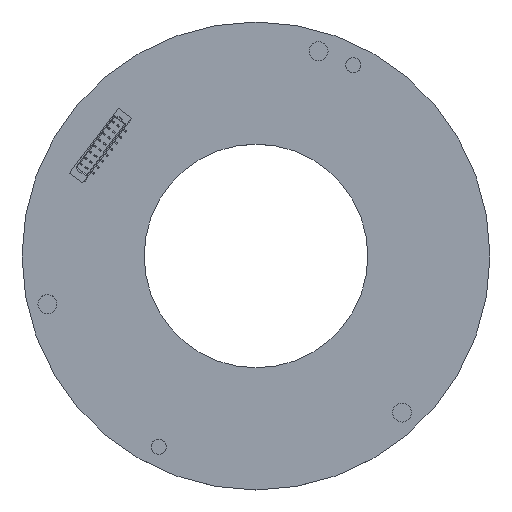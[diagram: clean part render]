
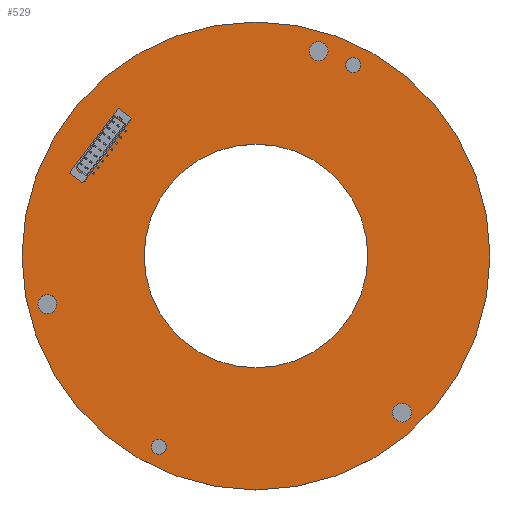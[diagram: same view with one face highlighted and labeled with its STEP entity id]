
A CAD part, top view. The second image highlights one B-rep face of the part: STEP entity #529.
In plain terms, the highlighted planar face has unit normal (0, 0, 1).
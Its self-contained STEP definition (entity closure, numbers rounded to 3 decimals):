
#156=CARTESIAN_POINT('',(0.,0.,0.8));
#157=DIRECTION('',(0.,0.,1.));
#158=DIRECTION('',(1.,0.,0.));
#159=AXIS2_PLACEMENT_3D('',#156,#157,#158);
#164=CARTESIAN_POINT('',(0.,0.,0.8));
#165=DIRECTION('',(0.,0.,1.));
#166=DIRECTION('',(-1.,0.,0.));
#167=AXIS2_PLACEMENT_3D('',#164,#165,#166);
#172=CARTESIAN_POINT('',(-10.306,-20.226,0.8));
#173=DIRECTION('',(0.,0.,1.));
#174=DIRECTION('',(1.,0.,0.));
#175=AXIS2_PLACEMENT_3D('',#172,#173,#174);
#180=CARTESIAN_POINT('',(-10.306,-20.226,0.8));
#181=DIRECTION('',(0.,0.,1.));
#182=DIRECTION('',(-1.,0.,0.));
#183=AXIS2_PLACEMENT_3D('',#180,#181,#182);
#188=CARTESIAN_POINT('',(-22.118,-5.106,0.8));
#189=DIRECTION('',(0.,0.,1.));
#190=DIRECTION('',(1.,0.,0.));
#191=AXIS2_PLACEMENT_3D('',#188,#189,#190);
#196=CARTESIAN_POINT('',(-22.118,-5.106,0.8));
#197=DIRECTION('',(0.,0.,1.));
#198=DIRECTION('',(-1.,0.,0.));
#199=AXIS2_PLACEMENT_3D('',#196,#197,#198);
#204=CARTESIAN_POINT('',(0.,0.,0.8));
#205=DIRECTION('',(0.,0.,1.));
#206=DIRECTION('',(1.,0.,0.));
#207=AXIS2_PLACEMENT_3D('',#204,#205,#206);
#212=CARTESIAN_POINT('',(0.,0.,0.8));
#213=DIRECTION('',(0.,0.,1.));
#214=DIRECTION('',(-1.,0.,0.));
#215=AXIS2_PLACEMENT_3D('',#212,#213,#214);
#220=CARTESIAN_POINT('',(15.481,-16.602,0.8));
#221=DIRECTION('',(0.,0.,1.));
#222=DIRECTION('',(1.,0.,0.));
#223=AXIS2_PLACEMENT_3D('',#220,#221,#222);
#228=CARTESIAN_POINT('',(15.481,-16.602,0.8));
#229=DIRECTION('',(0.,0.,1.));
#230=DIRECTION('',(-1.,0.,0.));
#231=AXIS2_PLACEMENT_3D('',#228,#229,#230);
#236=CARTESIAN_POINT('',(6.637,21.708,0.8));
#237=DIRECTION('',(0.,0.,1.));
#238=DIRECTION('',(1.,0.,0.));
#239=AXIS2_PLACEMENT_3D('',#236,#237,#238);
#244=CARTESIAN_POINT('',(6.637,21.708,0.8));
#245=DIRECTION('',(0.,0.,1.));
#246=DIRECTION('',(-1.,0.,0.));
#247=AXIS2_PLACEMENT_3D('',#244,#245,#246);
#252=CARTESIAN_POINT('',(10.306,20.226,0.8));
#253=DIRECTION('',(0.,0.,1.));
#254=DIRECTION('',(1.,0.,0.));
#255=AXIS2_PLACEMENT_3D('',#252,#253,#254);
#260=CARTESIAN_POINT('',(10.306,20.226,0.8));
#261=DIRECTION('',(0.,0.,1.));
#262=DIRECTION('',(-1.,0.,0.));
#263=AXIS2_PLACEMENT_3D('',#260,#261,#262);
#352=CARTESIAN_POINT('',(-24.8,0.,0.8));
#354=VERTEX_POINT('',#352);
#356=CARTESIAN_POINT('',(24.8,0.,0.8));
#358=VERTEX_POINT('',#356);
#360=CARTESIAN_POINT('',(-11.106,-20.226,0.8));
#362=VERTEX_POINT('',#360);
#364=CARTESIAN_POINT('',(-9.506,-20.226,0.8));
#366=VERTEX_POINT('',#364);
#368=CARTESIAN_POINT('',(-23.118,-5.106,0.8));
#370=VERTEX_POINT('',#368);
#372=CARTESIAN_POINT('',(-21.118,-5.106,0.8));
#374=VERTEX_POINT('',#372);
#376=CARTESIAN_POINT('',(-11.85,0.,0.8));
#378=VERTEX_POINT('',#376);
#380=CARTESIAN_POINT('',(11.85,0.,0.8));
#382=VERTEX_POINT('',#380);
#384=CARTESIAN_POINT('',(14.481,-16.602,0.8));
#386=VERTEX_POINT('',#384);
#388=CARTESIAN_POINT('',(16.481,-16.602,0.8));
#390=VERTEX_POINT('',#388);
#392=CARTESIAN_POINT('',(5.637,21.708,0.8));
#394=VERTEX_POINT('',#392);
#396=CARTESIAN_POINT('',(7.637,21.708,0.8));
#398=VERTEX_POINT('',#396);
#400=CARTESIAN_POINT('',(9.506,20.226,0.8));
#402=VERTEX_POINT('',#400);
#404=CARTESIAN_POINT('',(11.106,20.226,0.8));
#406=VERTEX_POINT('',#404);
#484=CARTESIAN_POINT('',(24.8,0.,0.8));
#485=DIRECTION('',(0.,0.,-1.));
#486=DIRECTION('',(-1.,0.,0.));
#487=AXIS2_PLACEMENT_3D('',#484,#485,#486);
#488=PLANE('',#487);
#489=ORIENTED_EDGE('',*,*,#478,.F.);
#490=ORIENTED_EDGE('',*,*,#417,.F.);
#491=EDGE_LOOP('',(#489,#490));
#492=FACE_OUTER_BOUND('',#491,.F.);
#494=ORIENTED_EDGE('',*,*,#493,.T.);
#496=ORIENTED_EDGE('',*,*,#495,.T.);
#497=EDGE_LOOP('',(#494,#496));
#498=FACE_BOUND('',#497,.F.);
#500=ORIENTED_EDGE('',*,*,#499,.T.);
#502=ORIENTED_EDGE('',*,*,#501,.T.);
#503=EDGE_LOOP('',(#500,#502));
#504=FACE_BOUND('',#503,.F.);
#506=ORIENTED_EDGE('',*,*,#505,.T.);
#508=ORIENTED_EDGE('',*,*,#507,.T.);
#509=EDGE_LOOP('',(#506,#508));
#510=FACE_BOUND('',#509,.F.);
#512=ORIENTED_EDGE('',*,*,#511,.T.);
#514=ORIENTED_EDGE('',*,*,#513,.T.);
#515=EDGE_LOOP('',(#512,#514));
#516=FACE_BOUND('',#515,.F.);
#518=ORIENTED_EDGE('',*,*,#517,.T.);
#520=ORIENTED_EDGE('',*,*,#519,.T.);
#521=EDGE_LOOP('',(#518,#520));
#522=FACE_BOUND('',#521,.F.);
#524=ORIENTED_EDGE('',*,*,#523,.T.);
#526=ORIENTED_EDGE('',*,*,#525,.T.);
#527=EDGE_LOOP('',(#524,#526));
#528=FACE_BOUND('',#527,.F.);
#529=ADVANCED_FACE('',(#492,#498,#504,#510,#516,#522,#528),#488,.F.);
#160=CIRCLE('',#159,24.8);
#168=CIRCLE('',#167,24.8);
#176=CIRCLE('',#175,0.8);
#184=CIRCLE('',#183,0.8);
#192=CIRCLE('',#191,1.);
#200=CIRCLE('',#199,1.);
#208=CIRCLE('',#207,11.85);
#216=CIRCLE('',#215,11.85);
#224=CIRCLE('',#223,1.);
#232=CIRCLE('',#231,1.);
#240=CIRCLE('',#239,1.);
#248=CIRCLE('',#247,1.);
#256=CIRCLE('',#255,0.8);
#264=CIRCLE('',#263,0.8);
#417=EDGE_CURVE('',#354,#358,#168,.T.);
#478=EDGE_CURVE('',#358,#354,#160,.T.);
#493=EDGE_CURVE('',#366,#362,#176,.T.);
#495=EDGE_CURVE('',#362,#366,#184,.T.);
#499=EDGE_CURVE('',#374,#370,#192,.T.);
#501=EDGE_CURVE('',#370,#374,#200,.T.);
#505=EDGE_CURVE('',#382,#378,#208,.T.);
#507=EDGE_CURVE('',#378,#382,#216,.T.);
#511=EDGE_CURVE('',#390,#386,#224,.T.);
#513=EDGE_CURVE('',#386,#390,#232,.T.);
#517=EDGE_CURVE('',#398,#394,#240,.T.);
#519=EDGE_CURVE('',#394,#398,#248,.T.);
#523=EDGE_CURVE('',#406,#402,#256,.T.);
#525=EDGE_CURVE('',#402,#406,#264,.T.);
